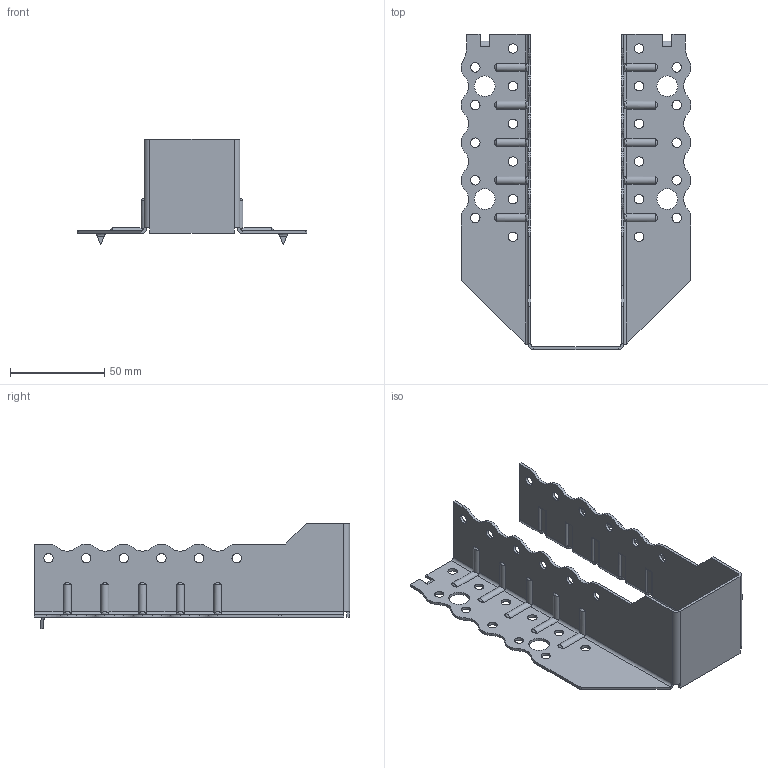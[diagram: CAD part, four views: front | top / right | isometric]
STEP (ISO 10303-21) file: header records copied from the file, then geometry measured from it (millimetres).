
FILE_DESCRIPTION (( 'STEP AP203' ), '1' );
FILE_NAME ('30614TOPK.STEP', '2021-04-08T14:35:18', ( '' ), ( '' ), 'SwSTEP 2.0', 'SolidWorks 2013', '' );
FILE_SCHEMA (( 'CONFIG_CONTROL_DESIGN' ));
Length unit declared in the file: millimetre
Products named in the file (1): 30614TOPK
Bounding box: 122 x 167.5 x 56 mm (x, y, z)
Volume: 36667.6 mm3; surface area: 52246 mm2
Topology: 1 solids, 1 shells, 426 faces, 1148 edges, 724 vertices
Faces by surface type: cylinder 267, plane 119, torus 20, bspline 20
Entity records: 15806 total; most frequent: CARTESIAN_POINT 4995, ORIENTED_EDGE 2296, DIRECTION 2214, EDGE_CURVE 1148, AXIS2_PLACEMENT_3D 807, VERTEX_POINT 724, LINE 600, VECTOR 600
